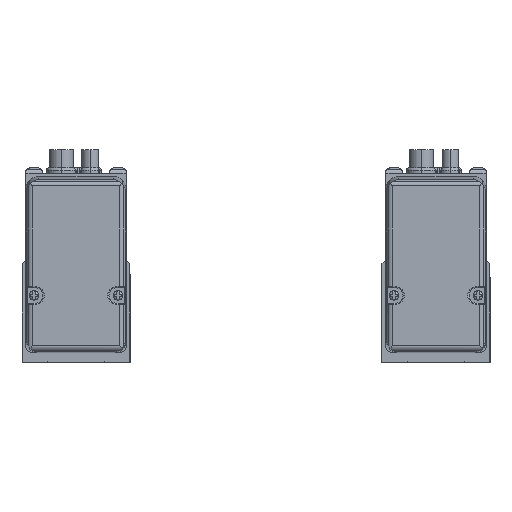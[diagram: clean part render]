
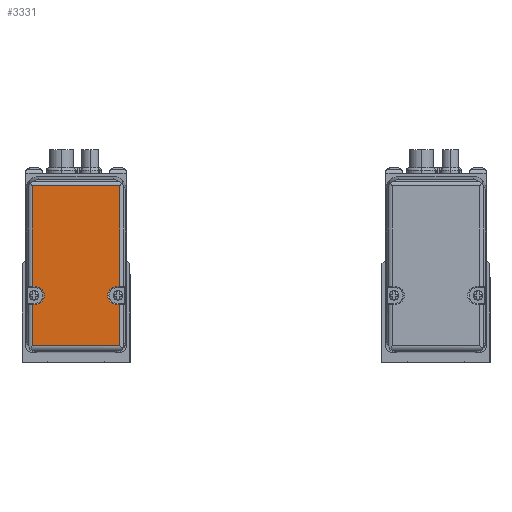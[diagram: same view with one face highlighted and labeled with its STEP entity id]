
A CAD part, left-side view. The second image highlights one B-rep face of the part: STEP entity #3331.
In plain terms, the highlighted planar face has unit normal (-1, 0, 0).
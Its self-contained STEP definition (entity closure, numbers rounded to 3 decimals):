
#3331=ADVANCED_FACE('',(#8305),#8306,.F.);
#8305=FACE_OUTER_BOUND('',#15265,.T.);
#8306=PLANE('',#15266);
#15265=EDGE_LOOP('',(#24837,#24838,#24839,#24840,#24841,#24842,#24843,#24844,#24845,#24846,#24847,#24848,#24849,#24850,#24851,#24852));
#15266=AXIS2_PLACEMENT_3D('',#24853,#24854,#24855);
#24837=ORIENTED_EDGE('',*,*,#43563,.F.);
#24838=ORIENTED_EDGE('',*,*,#43564,.F.);
#24839=ORIENTED_EDGE('',*,*,#43565,.F.);
#24840=ORIENTED_EDGE('',*,*,#43566,.F.);
#24841=ORIENTED_EDGE('',*,*,#43567,.F.);
#24842=ORIENTED_EDGE('',*,*,#43568,.F.);
#24843=ORIENTED_EDGE('',*,*,#43569,.F.);
#24844=ORIENTED_EDGE('',*,*,#43570,.F.);
#24845=ORIENTED_EDGE('',*,*,#43571,.F.);
#24846=ORIENTED_EDGE('',*,*,#43572,.F.);
#24847=ORIENTED_EDGE('',*,*,#43573,.F.);
#24848=ORIENTED_EDGE('',*,*,#43574,.F.);
#24849=ORIENTED_EDGE('',*,*,#43575,.F.);
#24850=ORIENTED_EDGE('',*,*,#43576,.F.);
#24851=ORIENTED_EDGE('',*,*,#43577,.F.);
#24852=ORIENTED_EDGE('',*,*,#43578,.F.);
#24853=CARTESIAN_POINT('',(-344.,225.0,20.));
#24854=DIRECTION('',(1.0,0.0,0.0));
#24855=DIRECTION('',(0.0,1.0,0.0));
#43563=EDGE_CURVE('',#53238,#53239,#53240,.T.);
#43564=EDGE_CURVE('',#53241,#53238,#53242,.T.);
#43565=EDGE_CURVE('',#53243,#53241,#53244,.T.);
#43566=EDGE_CURVE('',#53245,#53243,#53246,.T.);
#43567=EDGE_CURVE('',#53247,#53245,#53248,.T.);
#43568=EDGE_CURVE('',#53249,#53247,#53250,.T.);
#43569=EDGE_CURVE('',#53251,#53249,#53252,.T.);
#43570=EDGE_CURVE('',#53253,#53251,#53254,.T.);
#43571=EDGE_CURVE('',#53255,#53253,#53256,.T.);
#43572=EDGE_CURVE('',#53257,#53255,#53258,.T.);
#43573=EDGE_CURVE('',#53259,#53257,#53260,.T.);
#43574=EDGE_CURVE('',#53261,#53259,#53262,.T.);
#43575=EDGE_CURVE('',#53263,#53261,#53264,.T.);
#43576=EDGE_CURVE('',#53265,#53263,#53266,.T.);
#43577=EDGE_CURVE('',#53267,#53265,#53268,.T.);
#43578=EDGE_CURVE('',#53239,#53267,#53269,.T.);
#53238=VERTEX_POINT('',#66486);
#53239=VERTEX_POINT('',#66487);
#53240=LINE('',#66488,#66489);
#53241=VERTEX_POINT('',#66490);
#53242=LINE('',#66491,#66492);
#53243=VERTEX_POINT('',#66493);
#53244=CIRCLE('',#66494,3.75);
#53245=VERTEX_POINT('',#66495);
#53246=LINE('',#66496,#66497);
#53247=VERTEX_POINT('',#66498);
#53248=LINE('',#66499,#66500);
#53249=VERTEX_POINT('',#66501);
#53250=LINE('',#66502,#66503);
#53251=VERTEX_POINT('',#66504);
#53252=LINE('',#66505,#66506);
#53253=VERTEX_POINT('',#66507);
#53254=LINE('',#66508,#66509);
#53255=VERTEX_POINT('',#66510);
#53256=LINE('',#66511,#66512);
#53257=VERTEX_POINT('',#66513);
#53258=LINE('',#66514,#66515);
#53259=VERTEX_POINT('',#66516);
#53260=CIRCLE('',#66517,3.75);
#53261=VERTEX_POINT('',#66518);
#53262=LINE('',#66519,#66520);
#53263=VERTEX_POINT('',#66521);
#53264=LINE('',#66522,#66523);
#53265=VERTEX_POINT('',#66524);
#53266=LINE('',#66525,#66526);
#53267=VERTEX_POINT('',#66527);
#53268=LINE('',#66528,#66529);
#53269=LINE('',#66530,#66531);
#66486=CARTESIAN_POINT('',(-344.,241.995,9.05));
#66487=CARTESIAN_POINT('',(-344.,243.164,9.05));
#66488=CARTESIAN_POINT('',(-344.,225.0,9.05));
#66489=VECTOR('',#80723,0.5);
#66490=CARTESIAN_POINT('',(-344.,241.995,9.05));
#66491=CARTESIAN_POINT('',(-344.,241.995,12.65));
#66492=VECTOR('',#80724,1.0);
#66493=CARTESIAN_POINT('',(-344.,241.995,1.55));
#66494=AXIS2_PLACEMENT_3D('',#80725,#80726,#80727);
#66495=CARTESIAN_POINT('',(-344.,241.995,1.55));
#66496=CARTESIAN_POINT('',(-344.,241.995,12.65));
#66497=VECTOR('',#80728,1.0);
#66498=CARTESIAN_POINT('',(-344.,243.164,1.55));
#66499=CARTESIAN_POINT('',(-344.,225.0,1.55));
#66500=VECTOR('',#80729,0.5);
#66501=CARTESIAN_POINT('',(-344.,243.164,-15.664));
#66502=CARTESIAN_POINT('',(-344.,243.164,21.25));
#66503=VECTOR('',#80730,1.0);
#66504=CARTESIAN_POINT('',(-344.,206.836,-15.664));
#66505=CARTESIAN_POINT('',(-344.,225.0,-15.664));
#66506=VECTOR('',#80731,1.0);
#66507=CARTESIAN_POINT('',(-344.,206.836,1.55));
#66508=CARTESIAN_POINT('',(-344.,206.836,21.25));
#66509=VECTOR('',#80732,1.0);
#66510=CARTESIAN_POINT('',(-344.,208.005,1.55));
#66511=CARTESIAN_POINT('',(-344.,225.0,1.55));
#66512=VECTOR('',#80733,0.5);
#66513=CARTESIAN_POINT('',(-344.,208.005,1.55));
#66514=CARTESIAN_POINT('',(-344.,208.005,12.65));
#66515=VECTOR('',#80734,1.0);
#66516=CARTESIAN_POINT('',(-344.,208.005,9.05));
#66517=AXIS2_PLACEMENT_3D('',#80735,#80736,#80737);
#66518=CARTESIAN_POINT('',(-344.,208.005,9.05));
#66519=CARTESIAN_POINT('',(-344.,208.005,12.65));
#66520=VECTOR('',#80738,1.0);
#66521=CARTESIAN_POINT('',(-344.,206.836,9.05));
#66522=CARTESIAN_POINT('',(-344.,225.0,9.05));
#66523=VECTOR('',#80739,0.5);
#66524=CARTESIAN_POINT('',(-344.,206.836,51.065));
#66525=CARTESIAN_POINT('',(-344.,206.836,21.25));
#66526=VECTOR('',#80740,1.0);
#66527=CARTESIAN_POINT('',(-344.,243.164,51.065));
#66528=CARTESIAN_POINT('',(-344.,225.0,51.065));
#66529=VECTOR('',#80741,1.0);
#66530=CARTESIAN_POINT('',(-344.,243.164,21.25));
#66531=VECTOR('',#80742,1.0);
#80723=DIRECTION('',(0.0,1.0,0.));
#80724=DIRECTION('',(0.0,0.,1.0));
#80725=CARTESIAN_POINT('',(-344.,242.0,5.3));
#80726=DIRECTION('',(-1.0,0.0,0.0));
#80727=DIRECTION('',(0.0,-1.0,0.));
#80728=DIRECTION('',(0.0,0.,1.0));
#80729=DIRECTION('',(0.0,-1.0,0.));
#80730=DIRECTION('',(0.0,0.0,1.0));
#80731=DIRECTION('',(0.0,1.0,0.));
#80732=DIRECTION('',(-0.0,0.,-1.0));
#80733=DIRECTION('',(0.0,-1.0,0.));
#80734=DIRECTION('',(0.0,0.0,-1.0));
#80735=CARTESIAN_POINT('',(-344.,208.0,5.3));
#80736=DIRECTION('',(-1.0,0.0,0.0));
#80737=DIRECTION('',(0.0,1.0,0.0));
#80738=DIRECTION('',(0.0,0.0,-1.0));
#80739=DIRECTION('',(0.0,1.0,0.));
#80740=DIRECTION('',(-0.0,0.,-1.0));
#80741=DIRECTION('',(0.0,-1.0,0.));
#80742=DIRECTION('',(0.0,0.0,1.0));
